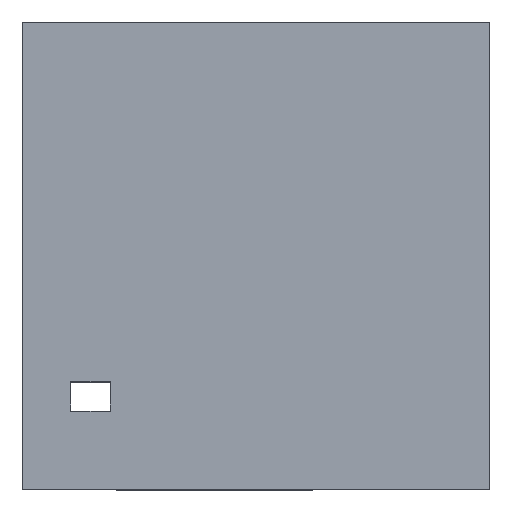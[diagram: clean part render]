
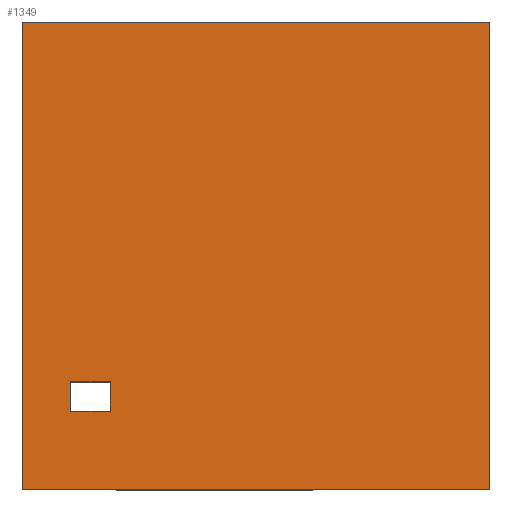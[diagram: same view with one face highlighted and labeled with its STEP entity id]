
A CAD part, top view. The second image highlights one B-rep face of the part: STEP entity #1349.
In plain terms, the highlighted planar face has unit normal (0, 0, 1).
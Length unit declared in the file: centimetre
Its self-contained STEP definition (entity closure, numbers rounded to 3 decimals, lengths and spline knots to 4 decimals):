
#20 = DIRECTION ( 'NONE',  ( 0., 1., 0. ) ) ;
#33 = VECTOR ( 'NONE', #1080, 100. ) ;
#43 = VECTOR ( 'NONE', #795, 100. ) ;
#54 = CARTESIAN_POINT ( 'NONE',  ( 0., 0., 1000. ) ) ;
#60 = CARTESIAN_POINT ( 'NONE',  ( 188.3742, 166.982, 1000. ) ) ;
#103 = ORIENTED_EDGE ( 'NONE', *, *, #1216, .T. ) ;
#117 = VERTEX_POINT ( 'NONE', #690 ) ;
#125 = EDGE_CURVE ( 'NONE', #1288, #1096, #906, .T. ) ;
#155 = DIRECTION ( 'NONE',  ( 1., 0., 0. ) ) ;
#180 = VECTOR ( 'NONE', #1304, 100. ) ;
#201 = VECTOR ( 'NONE', #1372, 100. ) ;
#204 = CARTESIAN_POINT ( 'NONE',  ( 1000., 0., 1000. ) ) ;
#206 = VERTEX_POINT ( 'NONE', #204 ) ;
#207 = EDGE_CURVE ( 'NONE', #206, #1202, #413, .T. ) ;
#232 = ORIENTED_EDGE ( 'NONE', *, *, #540, .T. ) ;
#254 = DIRECTION ( 'NONE',  ( -1., 0., 0. ) ) ;
#261 = CARTESIAN_POINT ( 'NONE',  ( 0., 1000., 1000. ) ) ;
#372 = CARTESIAN_POINT ( 'NONE',  ( 103.1183, 166.982, 1000. ) ) ;
#386 = VECTOR ( 'NONE', #20, 100. ) ;
#389 = CARTESIAN_POINT ( 'NONE',  ( 0., 1000., 1000. ) ) ;
#413 = LINE ( 'NONE', #1151, #201 ) ;
#475 = VECTOR ( 'NONE', #1299, 100. ) ;
#477 = LINE ( 'NONE', #54, #944 ) ;
#483 = DIRECTION ( 'NONE',  ( 1., 0., 0. ) ) ;
#510 = ORIENTED_EDGE ( 'NONE', *, *, #125, .T. ) ;
#540 = EDGE_CURVE ( 'NONE', #1186, #821, #791, .T. ) ;
#571 = CARTESIAN_POINT ( 'NONE',  ( 103.1183, 166.982, 1000. ) ) ;
#610 = CARTESIAN_POINT ( 'NONE',  ( 188.3742, 166.982, 1000. ) ) ;
#682 = DIRECTION ( 'NONE',  ( 0., 0., 1. ) ) ;
#690 = CARTESIAN_POINT ( 'NONE',  ( 103.1183, 230.7116, 1000. ) ) ;
#713 = ORIENTED_EDGE ( 'NONE', *, *, #847, .T. ) ;
#718 = LINE ( 'NONE', #1193, #475 ) ;
#765 = ORIENTED_EDGE ( 'NONE', *, *, #1021, .T. ) ;
#790 = CARTESIAN_POINT ( 'NONE',  ( 103.1183, 230.7116, 1000. ) ) ;
#791 = LINE ( 'NONE', #1226, #1127 ) ;
#795 = DIRECTION ( 'NONE',  ( 0., -1., 0. ) ) ;
#821 = VERTEX_POINT ( 'NONE', #571 ) ;
#840 = ORIENTED_EDGE ( 'NONE', *, *, #1198, .T. ) ;
#847 = EDGE_CURVE ( 'NONE', #117, #1241, #882, .T. ) ;
#854 = LINE ( 'NONE', #610, #33 ) ;
#882 = LINE ( 'NONE', #790, #180 ) ;
#887 = LINE ( 'NONE', #372, #386 ) ;
#890 = EDGE_LOOP ( 'NONE', ( #510, #765, #1013, #840 ) ) ;
#906 = LINE ( 'NONE', #389, #43 ) ;
#944 = VECTOR ( 'NONE', #483, 100. ) ;
#974 = AXIS2_PLACEMENT_3D ( 'NONE', #1121, #682, #155 ) ;
#1003 = FACE_BOUND ( 'NONE', #1101, .T. ) ;
#1013 = ORIENTED_EDGE ( 'NONE', *, *, #207, .T. ) ;
#1021 = EDGE_CURVE ( 'NONE', #1096, #206, #477, .T. ) ;
#1076 = ORIENTED_EDGE ( 'NONE', *, *, #1276, .T. ) ;
#1080 = DIRECTION ( 'NONE',  ( 0., -1., 0. ) ) ;
#1096 = VERTEX_POINT ( 'NONE', #1166 ) ;
#1101 = EDGE_LOOP ( 'NONE', ( #1076, #713, #103, #232 ) ) ;
#1121 = CARTESIAN_POINT ( 'NONE',  ( 0., 0., 1000. ) ) ;
#1127 = VECTOR ( 'NONE', #254, 100. ) ;
#1128 = PLANE ( 'NONE',  #974 ) ;
#1146 = CARTESIAN_POINT ( 'NONE',  ( 188.3742, 230.7116, 1000. ) ) ;
#1151 = CARTESIAN_POINT ( 'NONE',  ( 1000., 1000., 1000. ) ) ;
#1166 = CARTESIAN_POINT ( 'NONE',  ( 0., 0., 1000. ) ) ;
#1186 = VERTEX_POINT ( 'NONE', #60 ) ;
#1193 = CARTESIAN_POINT ( 'NONE',  ( 0., 1000., 1000. ) ) ;
#1198 = EDGE_CURVE ( 'NONE', #1202, #1288, #718, .T. ) ;
#1202 = VERTEX_POINT ( 'NONE', #1253 ) ;
#1216 = EDGE_CURVE ( 'NONE', #1241, #1186, #854, .T. ) ;
#1226 = CARTESIAN_POINT ( 'NONE',  ( 103.1183, 166.982, 1000. ) ) ;
#1233 = FACE_OUTER_BOUND ( 'NONE', #890, .T. ) ;
#1241 = VERTEX_POINT ( 'NONE', #1146 ) ;
#1253 = CARTESIAN_POINT ( 'NONE',  ( 1000., 1000., 1000. ) ) ;
#1276 = EDGE_CURVE ( 'NONE', #821, #117, #887, .T. ) ;
#1288 = VERTEX_POINT ( 'NONE', #261 ) ;
#1299 = DIRECTION ( 'NONE',  ( -1., 0., 0. ) ) ;
#1304 = DIRECTION ( 'NONE',  ( 1., 0., 0. ) ) ;
#1349 = ADVANCED_FACE ( 'NONE', ( #1003, #1233 ), #1128, .T. ) ;
#1372 = DIRECTION ( 'NONE',  ( 0., 1., 0. ) ) ;
